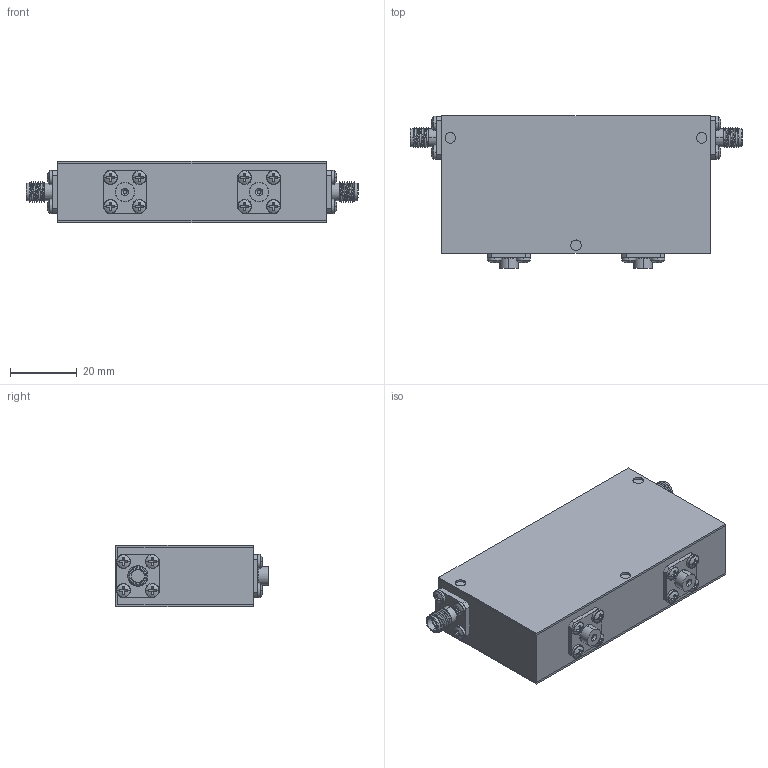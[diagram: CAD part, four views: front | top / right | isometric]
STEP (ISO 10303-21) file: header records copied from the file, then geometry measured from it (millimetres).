
FILE_DESCRIPTION (( 'STEP AP214' ), '1' );
FILE_NAME ('Package 12 Iso FF.step', '2021-12-01T20:57:13', ( '' ), ( '' ), 'SwSTEP 2.0', 'SolidWorks 2016', '' );
FILE_SCHEMA (( 'AUTOMOTIVE_DESIGN' ));
Length unit declared in the file: inch
Products named in the file (6): Package Size 12; Delta SMA-Female 0.500 flange Threaded; 030013-1A; pan cross head_ai_CR-PHMS 0.086-56x0.125x0.125-N; Package 12; Package 12 Iso FF
Assembly tree (22 placements, depth 2):
  Package 12 Iso FF
    Package 12
    pan cross head_ai_CR-PHMS 0.086-56x0.125x0.125-N  x16
    030013-1A  x2
    Delta SMA-Female 0.500 flange Threaded  x2
    Package Size 12
Bounding box: 99.31 x 45.59 x 18.54 mm (x, y, z)
Volume: 62696 mm3; surface area: 30203.4 mm2
Topology: 22 solids, 22 shells, 538 faces, 1222 edges, 754 vertices
Faces by surface type: plane 296, cylinder 156, torus 40, sphere 32, cone 8, bspline 6
Entity records: 4805 total; most frequent: CARTESIAN_POINT 1374, DIRECTION 727, ORIENTED_EDGE 594, EDGE_CURVE 297, AXIS2_PLACEMENT_3D 294, VERTEX_POINT 191, EDGE_LOOP 160, CIRCLE 150
